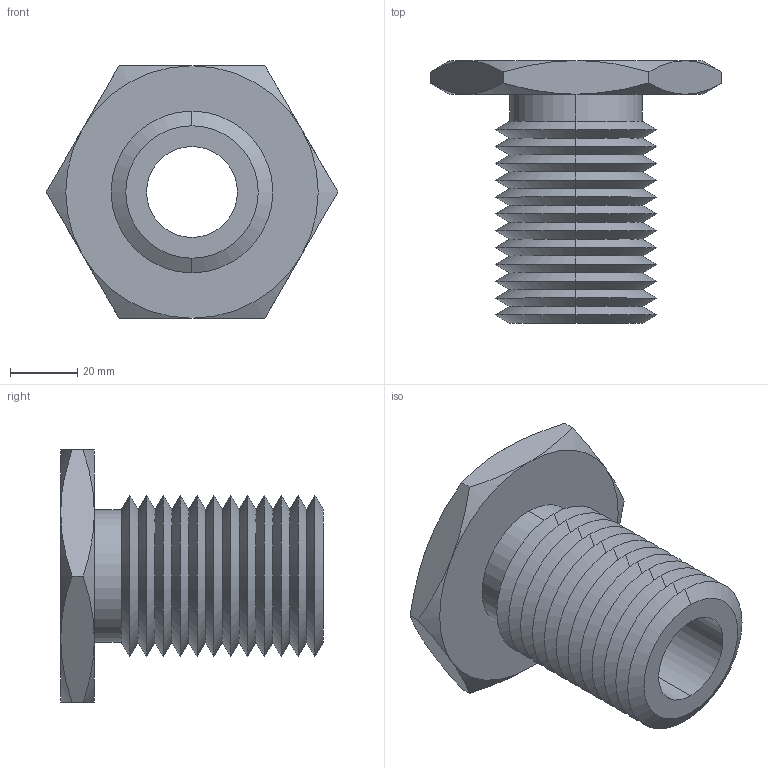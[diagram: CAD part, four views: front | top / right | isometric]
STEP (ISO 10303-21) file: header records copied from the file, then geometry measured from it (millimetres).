
FILE_DESCRIPTION (( 'STEP AP203' ), '1' );
FILE_NAME ('63302.W0048_M27x3.step', '2013-12-08T11:17:47', ( 'User' ), ( '' ), 'SwSTEP 2.0', 'SolidWorks 2009', '' );
FILE_SCHEMA (( 'CONFIG_CONTROL_DESIGN' ));
Length unit declared in the file: millimetre
Products named in the file (1): 63302.W0048_M27x3
Bounding box: 86.6 x 78 x 75 mm (x, y, z)
Volume: 102614.7 mm3; surface area: 34669.8 mm2
Topology: 1 solids, 1 shells, 75 faces, 154 edges, 82 vertices
Faces by surface type: cone 62, plane 9, cylinder 4
Entity records: 2139 total; most frequent: CARTESIAN_POINT 496, DIRECTION 352, ORIENTED_EDGE 308, EDGE_CURVE 154, AXIS2_PLACEMENT_3D 146, VERTEX_POINT 82, EDGE_LOOP 78, ADVANCED_FACE 75
